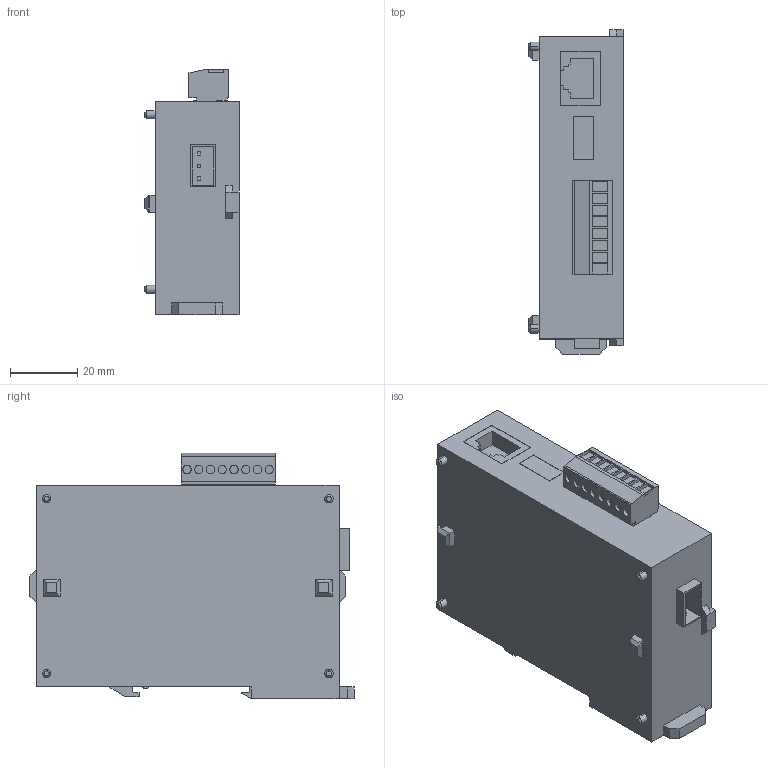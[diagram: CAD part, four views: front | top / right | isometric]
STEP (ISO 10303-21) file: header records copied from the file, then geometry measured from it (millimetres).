
FILE_DESCRIPTION (( 'STEP AP214' ), '1' );
FILE_NAME ('ks1.step', '2010-01-26T07:32:53', ( '' ), ( 'PanasonicElectricWorks' ), '', '', '' );
FILE_SCHEMA (( 'AUTOMOTIVE_DESIGN' ));
Length unit declared in the file: millimetre
Products named in the file (1): ks1
Bounding box: 28 x 96.5 x 73 mm (x, y, z)
Volume: 139900.2 mm3; surface area: 21617.6 mm2
Topology: 1 solids, 1 shells, 255 faces, 617 edges, 404 vertices
Faces by surface type: plane 211, cylinder 36, cone 8
Entity records: 10163 total; most frequent: CARTESIAN_POINT 1277, ORIENTED_EDGE 1234, DIRECTION 1209, EDGE_CURVE 617, VECTOR 537, LINE 537, VERTEX_POINT 404, AXIS2_PLACEMENT_3D 336
